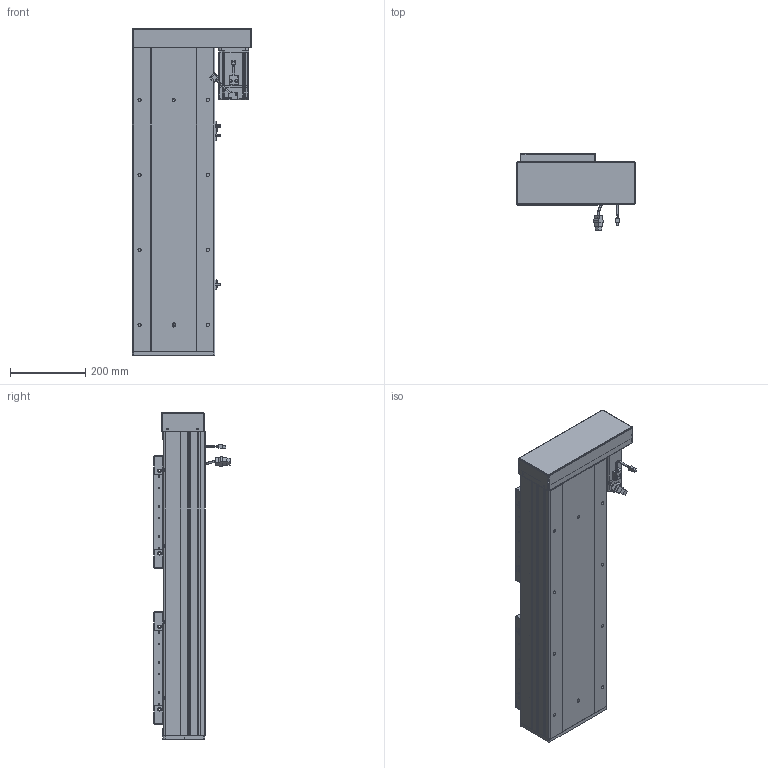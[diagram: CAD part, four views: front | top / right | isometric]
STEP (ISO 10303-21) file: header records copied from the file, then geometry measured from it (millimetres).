
FILE_DESCRIPTION (( 'STEP AP203' ), '1' );
FILE_NAME ('RY220F-L2525-300-RK.SLDASM_400.step', '2022-07-04T01:34:50', ( '' ), ( '' ), 'SwSTEP 2.0', 'SolidWorks 2016', '' );
FILE_SCHEMA (( 'CONFIG_CONTROL_DESIGN' ));
Length unit declared in the file: millimetre
Products named in the file (15): RY220F-L2525-300-RK.SLDASM_400; RY220F-蛌殏奻裔啣-300_400; RY220F-滅鳥奻裔; RY220F蛌殏菁釱-300_400; 覜茼ん672; 侐源滅袉蝶; RY220左右折电机安装板; RY220F-672覜茼んえ; 怢湛750W_ECMA-CX0807ES; RY220F-詩湍揤踡輸; RY220F臏賑釱25-32佪裝; RY220F綴裔啣; 滅袉蝶18-24; RY220F-祥凄詩湍-蛌殏-300_400; RY220酘衵殏萇儂欶
Assembly tree (24 placements, depth 2):
  RY220F-L2525-300-RK.SLDASM_400
    RY220F蛌殏菁釱-300_400
    RY220F-蛌殏奻裔啣-300_400  x2
    怢湛750W_ECMA-CX0807ES
    RY220F臏賑釱25-32佪裝  x2
    RY220F-滅鳥奻裔  x2
    滅袉蝶18-24  x3
    RY220F綴裔啣
    RY220F-祥凄詩湍-蛌殏-300_400
    RY220F-詩湍揤踡輸  x2
    覜茼ん672  x3
    RY220F-672覜茼んえ  x2
    RY220左右折电机安装板
    RY220酘衵殏萇儂欶
    侐源滅袉蝶  x2
Bounding box: 317.5 x 205.27 x 871 mm (x, y, z)
Volume: 10491292.2 mm3; surface area: 2666005.6 mm2
Topology: 25 solids, 25 shells, 2636 faces, 7192 edges, 4484 vertices
Faces by surface type: cylinder 1174, plane 1044, cone 347, bspline 45, sphere 16, torus 10
Entity records: 65080 total; most frequent: CARTESIAN_POINT 18057, ORIENTED_EDGE 9550, DIRECTION 9140, EDGE_CURVE 4775, AXIS2_PLACEMENT_3D 3218, VERTEX_POINT 3100, VECTOR 2704, LINE 2704
